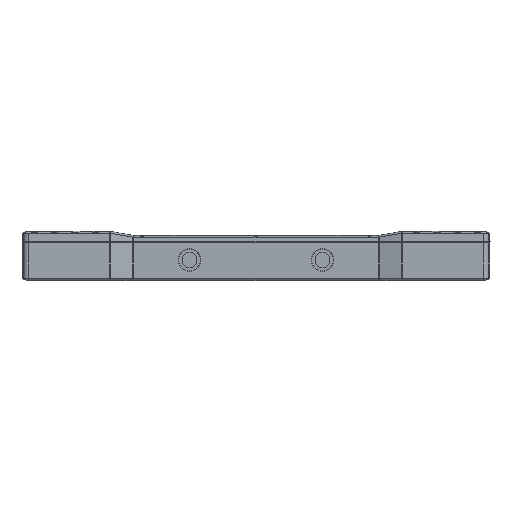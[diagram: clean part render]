
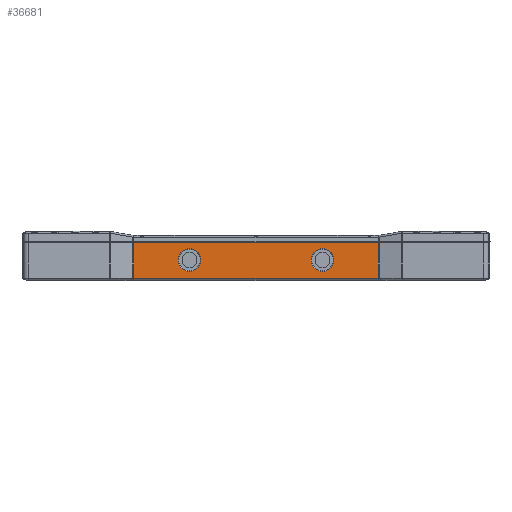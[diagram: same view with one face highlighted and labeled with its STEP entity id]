
A CAD part, top view. The second image highlights one B-rep face of the part: STEP entity #36681.
In plain terms, the highlighted planar face has unit normal (0, 0, 1).
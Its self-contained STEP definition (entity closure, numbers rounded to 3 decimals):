
#17462=DIRECTION('',(-1.,0.,0.));
#17463=VECTOR('',#17462,238.7);
#17464=CARTESIAN_POINT('',(119.35,37.15,59.5));
#17465=LINE('',#17464,#17463);
#17466=DIRECTION('',(0.,-1.,0.));
#17467=VECTOR('',#17466,35.15);
#17468=CARTESIAN_POINT('',(119.35,37.15,59.5));
#17469=LINE('',#17468,#17467);
#17470=DIRECTION('',(-1.,0.,0.));
#17471=VECTOR('',#17470,238.7);
#17472=CARTESIAN_POINT('',(119.35,2.,59.5));
#17473=LINE('',#17472,#17471);
#17474=DIRECTION('',(0.,-1.,0.));
#17475=VECTOR('',#17474,35.15);
#17476=CARTESIAN_POINT('',(-119.35,37.15,
59.5));
#17477=LINE('',#17476,#17475);
#17478=CARTESIAN_POINT('',(65.,20.,59.5));
#17479=DIRECTION('',(0.,0.,-1.));
#17480=DIRECTION('',(1.,0.,0.));
#17481=AXIS2_PLACEMENT_3D('',#17478,#17479,#17480);
#17483=CARTESIAN_POINT('',(65.,20.,59.5));
#17484=DIRECTION('',(0.,0.,-1.));
#17485=DIRECTION('',(-1.,0.,0.));
#17486=AXIS2_PLACEMENT_3D('',#17483,#17484,#17485);
#17488=CARTESIAN_POINT('',(-65.,20.,59.5));
#17489=DIRECTION('',(0.,0.,-1.));
#17490=DIRECTION('',(1.,0.,0.));
#17491=AXIS2_PLACEMENT_3D('',#17488,#17489,#17490);
#17493=CARTESIAN_POINT('',(-65.,20.,59.5));
#17494=DIRECTION('',(0.,0.,-1.));
#17495=DIRECTION('',(-1.,0.,0.));
#17496=AXIS2_PLACEMENT_3D('',#17493,#17494,#17495);
#18926=CARTESIAN_POINT('',(119.35,2.,59.5));
#18927=VERTEX_POINT('',#18926);
#18930=CARTESIAN_POINT('',(-119.35,2.,
59.5));
#18931=VERTEX_POINT('',#18930);
#19738=CARTESIAN_POINT('',(119.35,37.15,59.5));
#19739=VERTEX_POINT('',#19738);
#19742=CARTESIAN_POINT('',(-119.35,37.15,
59.5));
#19743=VERTEX_POINT('',#19742);
#21674=CARTESIAN_POINT('',(76.,20.,59.5));
#21675=CARTESIAN_POINT('',(54.,20.,59.5));
#21676=VERTEX_POINT('',#21674);
#21677=VERTEX_POINT('',#21675);
#21682=CARTESIAN_POINT('',(-54.,20.,59.5));
#21683=CARTESIAN_POINT('',(-76.,20.,59.5));
#21684=VERTEX_POINT('',#21682);
#21685=VERTEX_POINT('',#21683);
#36656=CARTESIAN_POINT('',(120.,48.,59.5));
#36657=DIRECTION('',(0.,0.,-1.));
#36658=DIRECTION('',(-1.,0.,0.));
#36659=AXIS2_PLACEMENT_3D('',#36656,#36657,#36658);
#36660=PLANE('',#36659);
#36662=ORIENTED_EDGE('',*,*,#36661,.F.);
#36664=ORIENTED_EDGE('',*,*,#36663,.T.);
#36665=ORIENTED_EDGE('',*,*,#23124,.T.);
#36667=ORIENTED_EDGE('',*,*,#36666,.F.);
#36668=EDGE_LOOP('',(#36662,#36664,#36665,#36667));
#36669=FACE_OUTER_BOUND('',#36668,.F.);
#36671=ORIENTED_EDGE('',*,*,#36670,.F.);
#36672=ORIENTED_EDGE('',*,*,#36646,.F.);
#36673=EDGE_LOOP('',(#36671,#36672));
#36674=FACE_BOUND('',#36673,.F.);
#36676=ORIENTED_EDGE('',*,*,#36675,.F.);
#36678=ORIENTED_EDGE('',*,*,#36677,.F.);
#36679=EDGE_LOOP('',(#36676,#36678));
#36680=FACE_BOUND('',#36679,.F.);
#17482=CIRCLE('',#17481,11.);
#17487=CIRCLE('',#17486,11.);
#17492=CIRCLE('',#17491,11.);
#17497=CIRCLE('',#17496,11.);
#23124=EDGE_CURVE('',#18927,#18931,#17473,.T.);
#36646=EDGE_CURVE('',#21677,#21676,#17487,.T.);
#36661=EDGE_CURVE('',#19739,#19743,#17465,.T.);
#36663=EDGE_CURVE('',#19739,#18927,#17469,.T.);
#36666=EDGE_CURVE('',#19743,#18931,#17477,.T.);
#36670=EDGE_CURVE('',#21676,#21677,#17482,.T.);
#36675=EDGE_CURVE('',#21684,#21685,#17492,.T.);
#36677=EDGE_CURVE('',#21685,#21684,#17497,.T.);
#36681=ADVANCED_FACE('',(#36669,#36674,#36680),#36660,.F.);
